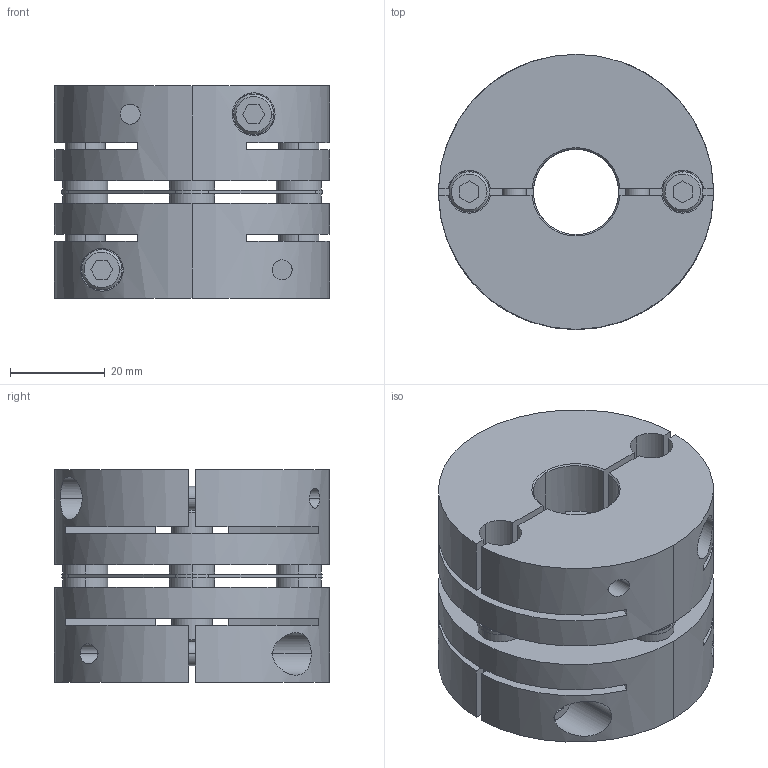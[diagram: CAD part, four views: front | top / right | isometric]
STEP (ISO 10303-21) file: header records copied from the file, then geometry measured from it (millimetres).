
FILE_DESCRIPTION((''),'2;1');
FILE_NAME('LAS-58C-18×18.stp','2015-10-15T14:52:24',(''),(''),'AutoCAD STEP 2000i','AutoCAD 2000i',', , ');
FILE_SCHEMA(('CONFIG_CONTROL_DESIGN'));
Length unit declared in the file: millimetre
Products named in the file (6): LAS-58C-12×19; 忣兜1; LA-5802-D19; LA-5802-D12-1; LA-5802-D12; LAS58-ITA
Assembly tree (5 placements, depth 2):
  LAS-58C-12×19
    忣兜1
    LA-5802-D19
    LA-5802-D12-1
    LA-5802-D12
    LAS58-ITA
Bounding box: 58 x 58 x 44.8 mm (x, y, z)
Volume: 86313.5 mm3; surface area: 33221.3 mm2
Topology: 1 solids, 1 shells, 238 faces, 618 edges, 404 vertices
Faces by surface type: plane 114, cylinder 96, cone 28
Entity records: 8213 total; most frequent: CARTESIAN_POINT 1988, DIRECTION 1316, ORIENTED_EDGE 1240, EDGE_CURVE 620, AXIS2_PLACEMENT_3D 484, VERTEX_POINT 404, VECTOR 348, LINE 348
